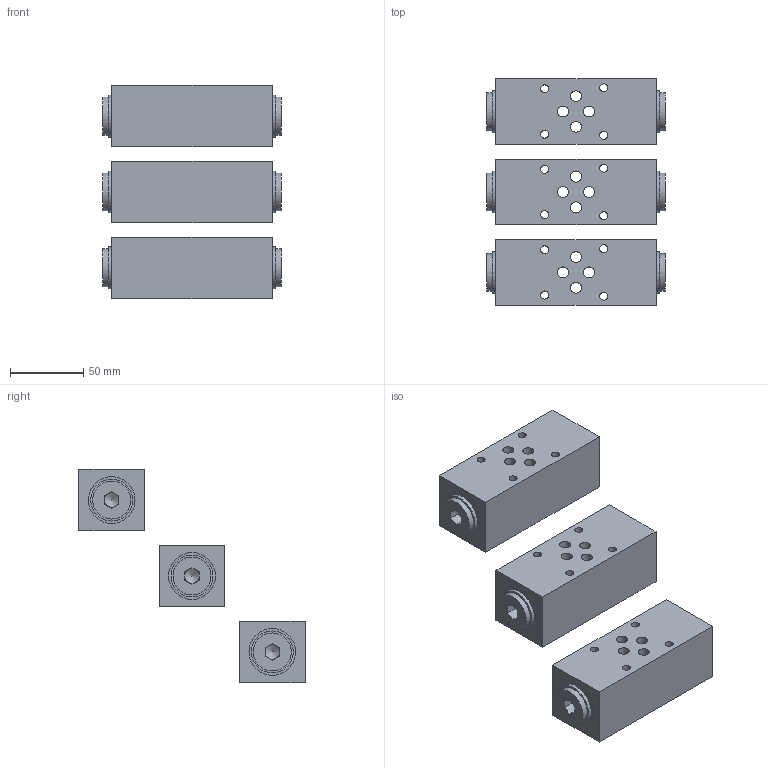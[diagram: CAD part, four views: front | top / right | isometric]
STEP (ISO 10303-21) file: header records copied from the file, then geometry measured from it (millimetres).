
FILE_DESCRIPTION(('Bauteilbeschreibung','HiCAD-Model','HiCAD-STEP-TRANSLATION','Bauteilbeschreibung'),'2;1');
FILE_NAME('C:/_EIGENE_DATEN/DXF_STEP/A_ERV_6_3508.STP','2008-08-25T15:43:42+00:00',('Konstrukteur'),('Konstrukteur Firma GmbH'),' HiCAD neXt 2007, Step 3.1.1212.3C ','HiCAD neXt 2007','confidential');
FILE_SCHEMA(('AUTOMOTIVE_DESIGN { 1 2 10303 214 0 1 1 1 }'));
Length unit declared in the file: millimetre
Products named in the file (22): A_ERV_6_3508; ADERV6; AE80EE46; AF54FBA9; A1F8BD3B; A1F8BD3B0; A39_2100; A3902100; AERVA6; A627B66E; AF54FBA90; A1F8BD3B1; A1F8BD3B2; A39021000; A39021001; AERVB6; A82BDE85; AF54FBA91; A1F8BD3B3; A1F8BD3B4; A39021002; A39021003
Assembly tree (21 placements, depth 4):
  A_ERV_6_3508
    ADERV6
      AE80EE46
        AF54FBA9
        A1F8BD3B
        A1F8BD3B0
        A39_2100
        A3902100
    AERVA6
      A627B66E
        AF54FBA90
        A1F8BD3B1
        A1F8BD3B2
        A39021000
        A39021001
    AERVB6
      A82BDE85
        AF54FBA91
        A1F8BD3B3
        A1F8BD3B4
        A39021002
        A39021003
Bounding box: 122.4 x 155 x 146 mm (x, y, z)
Volume: 575748.7 mm3; surface area: 117548.3 mm2
Topology: 15 solids, 15 shells, 222 faces, 600 edges, 408 vertices
Faces by surface type: plane 114, cylinder 84, cone 24
Full cylindrical faces by diameter (mm): 5.5 x12, 7.5 x12, 12.5 x12, 17 x6, 18.631 x6, 19 x6, 20.955 x6, 21.5 x6, 26 x6, 28.7 x6, 32 x6
Entity records: 10165 total; most frequent: DIRECTION 1128, CARTESIAN_POINT 972, ORIENTED_EDGE 780, COLOUR_RGB 627, PRESENTATION_STYLE_ASSIGNMENT 627, OVER_RIDING_STYLED_ITEM 612, AXIS2_PLACEMENT_3D 474, EDGE_LOOP 426
